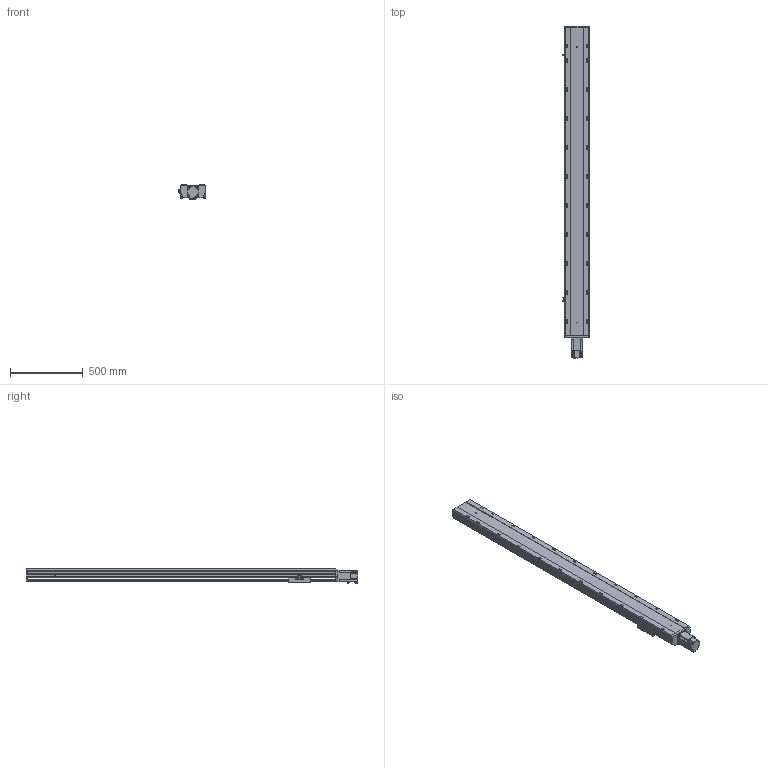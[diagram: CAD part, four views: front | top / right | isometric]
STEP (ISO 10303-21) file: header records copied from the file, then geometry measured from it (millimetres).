
FILE_DESCRIPTION (( 'STEP AP203' ), '1' );
FILE_NAME ('34.STEP', '2021-01-04T10:50:17', ( '' ), ( '' ), 'SwSTEP 2.0', 'SolidWorks 2016', '' );
FILE_SCHEMA (( 'CONFIG_CONTROL_DESIGN' ));
Length unit declared in the file: millimetre
Products named in the file (7): BTH17-BC-02-T75; BTH17M-BC-HZ; 34; BTH17M-BC-菁釱; T75; BTH17M-BC-01; BTH17M-BC-04
Assembly tree (8 placements, depth 2):
  34
    BTH17M-BC-菁釱
    BTH17M-BC-01
    BTH17M-BC-04  x3
    BTH17M-BC-HZ
    BTH17-BC-02-T75
    T75
Bounding box: 183.7 x 2289.3 x 99.3 mm (x, y, z)
Volume: 14819157.6 mm3; surface area: 2329882.2 mm2
Topology: 10 solids, 10 shells, 1185 faces, 3263 edges, 2106 vertices
Faces by surface type: plane 666, cylinder 439, cone 80
Entity records: 31288 total; most frequent: CARTESIAN_POINT 6007, DIRECTION 5141, ORIENTED_EDGE 5106, EDGE_CURVE 2553, AXIS2_PLACEMENT_3D 1760, VERTEX_POINT 1682, LINE 1621, VECTOR 1621
